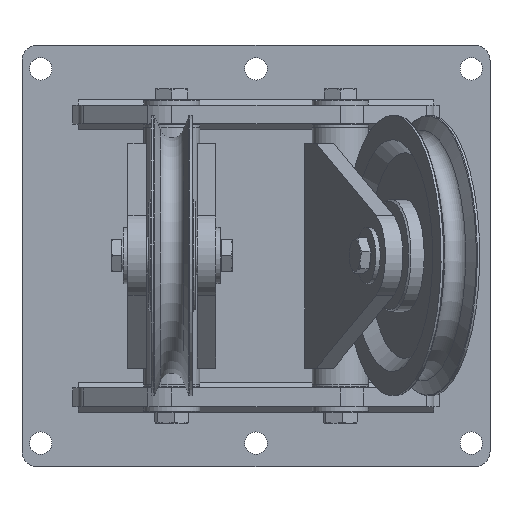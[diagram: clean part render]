
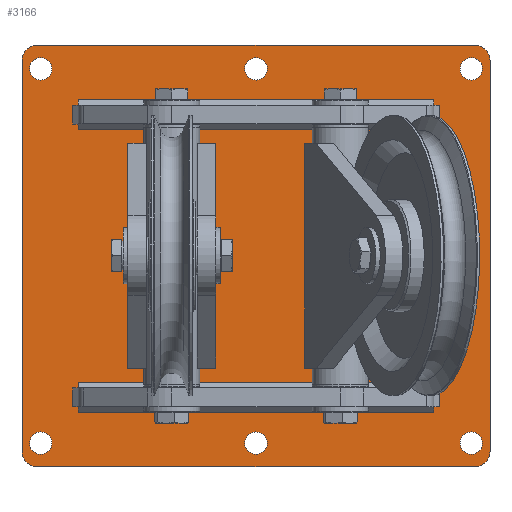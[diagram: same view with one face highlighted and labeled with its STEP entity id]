
A CAD part, top view. The second image highlights one B-rep face of the part: STEP entity #3166.
In plain terms, the highlighted planar face has unit normal (0, 0, 1).
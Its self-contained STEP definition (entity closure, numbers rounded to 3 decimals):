
#213=FACE_BOUND('',#774,.T.);
#214=FACE_BOUND('',#775,.T.);
#215=FACE_BOUND('',#776,.T.);
#216=FACE_BOUND('',#777,.T.);
#217=FACE_BOUND('',#778,.T.);
#218=FACE_BOUND('',#779,.T.);
#251=CIRCLE('',#3672,6.);
#252=CIRCLE('',#3673,6.);
#254=CIRCLE('',#3676,6.);
#255=CIRCLE('',#3677,6.);
#257=CIRCLE('',#3680,6.);
#258=CIRCLE('',#3681,6.);
#260=CIRCLE('',#3684,6.);
#261=CIRCLE('',#3685,6.);
#263=CIRCLE('',#3688,6.);
#264=CIRCLE('',#3689,6.);
#266=CIRCLE('',#3692,6.);
#267=CIRCLE('',#3693,6.);
#269=CIRCLE('',#3696,8.);
#271=CIRCLE('',#3700,8.);
#272=CIRCLE('',#3701,8.);
#273=CIRCLE('',#3702,8.);
#585=FACE_OUTER_BOUND('',#773,.T.);
#773=EDGE_LOOP('',(#2331,#2332,#2333,#2334,#2335,#2336,#2337,#2338));
#774=EDGE_LOOP('',(#2339,#2340));
#775=EDGE_LOOP('',(#2341,#2342));
#776=EDGE_LOOP('',(#2343,#2344));
#777=EDGE_LOOP('',(#2345,#2346));
#778=EDGE_LOOP('',(#2347,#2348));
#779=EDGE_LOOP('',(#2349,#2350));
#1031=LINE('',#5326,#1271);
#1034=LINE('',#5332,#1274);
#1035=LINE('',#5336,#1275);
#1036=LINE('',#5340,#1276);
#1271=VECTOR('',#4263,10.);
#1274=VECTOR('',#4268,10.);
#1275=VECTOR('',#4271,10.);
#1276=VECTOR('',#4274,10.);
#1479=VERTEX_POINT('',#5268);
#1480=VERTEX_POINT('',#5269);
#1482=VERTEX_POINT('',#5276);
#1483=VERTEX_POINT('',#5277);
#1485=VERTEX_POINT('',#5284);
#1486=VERTEX_POINT('',#5285);
#1488=VERTEX_POINT('',#5292);
#1489=VERTEX_POINT('',#5293);
#1491=VERTEX_POINT('',#5300);
#1492=VERTEX_POINT('',#5301);
#1494=VERTEX_POINT('',#5308);
#1495=VERTEX_POINT('',#5309);
#1497=VERTEX_POINT('',#5316);
#1498=VERTEX_POINT('',#5317);
#1501=VERTEX_POINT('',#5325);
#1503=VERTEX_POINT('',#5331);
#1504=VERTEX_POINT('',#5333);
#1505=VERTEX_POINT('',#5335);
#1506=VERTEX_POINT('',#5337);
#1507=VERTEX_POINT('',#5339);
#1794=EDGE_CURVE('',#1479,#1480,#251,.T.);
#1795=EDGE_CURVE('',#1480,#1479,#252,.T.);
#1798=EDGE_CURVE('',#1482,#1483,#254,.T.);
#1799=EDGE_CURVE('',#1483,#1482,#255,.T.);
#1802=EDGE_CURVE('',#1485,#1486,#257,.T.);
#1803=EDGE_CURVE('',#1486,#1485,#258,.T.);
#1806=EDGE_CURVE('',#1488,#1489,#260,.T.);
#1807=EDGE_CURVE('',#1489,#1488,#261,.T.);
#1810=EDGE_CURVE('',#1491,#1492,#263,.T.);
#1811=EDGE_CURVE('',#1492,#1491,#264,.T.);
#1814=EDGE_CURVE('',#1494,#1495,#266,.T.);
#1815=EDGE_CURVE('',#1495,#1494,#267,.T.);
#1818=EDGE_CURVE('',#1497,#1498,#269,.T.);
#1822=EDGE_CURVE('',#1501,#1498,#1031,.T.);
#1825=EDGE_CURVE('',#1497,#1503,#1034,.T.);
#1826=EDGE_CURVE('',#1504,#1503,#271,.T.);
#1827=EDGE_CURVE('',#1504,#1505,#1035,.T.);
#1828=EDGE_CURVE('',#1506,#1505,#272,.T.);
#1829=EDGE_CURVE('',#1506,#1507,#1036,.T.);
#1830=EDGE_CURVE('',#1501,#1507,#273,.T.);
#2331=ORIENTED_EDGE('',*,*,#1818,.F.);
#2332=ORIENTED_EDGE('',*,*,#1825,.T.);
#2333=ORIENTED_EDGE('',*,*,#1826,.F.);
#2334=ORIENTED_EDGE('',*,*,#1827,.T.);
#2335=ORIENTED_EDGE('',*,*,#1828,.F.);
#2336=ORIENTED_EDGE('',*,*,#1829,.T.);
#2337=ORIENTED_EDGE('',*,*,#1830,.F.);
#2338=ORIENTED_EDGE('',*,*,#1822,.T.);
#2339=ORIENTED_EDGE('',*,*,#1794,.T.);
#2340=ORIENTED_EDGE('',*,*,#1795,.T.);
#2341=ORIENTED_EDGE('',*,*,#1798,.T.);
#2342=ORIENTED_EDGE('',*,*,#1799,.T.);
#2343=ORIENTED_EDGE('',*,*,#1802,.T.);
#2344=ORIENTED_EDGE('',*,*,#1803,.T.);
#2345=ORIENTED_EDGE('',*,*,#1806,.T.);
#2346=ORIENTED_EDGE('',*,*,#1807,.T.);
#2347=ORIENTED_EDGE('',*,*,#1810,.T.);
#2348=ORIENTED_EDGE('',*,*,#1811,.T.);
#2349=ORIENTED_EDGE('',*,*,#1814,.T.);
#2350=ORIENTED_EDGE('',*,*,#1815,.T.);
#3044=PLANE('',#3699);
#3166=ADVANCED_FACE('',(#585,#213,#214,#215,#216,#217,#218),#3044,.T.);
#3672=AXIS2_PLACEMENT_3D('',#5270,#4201,#4202);
#3673=AXIS2_PLACEMENT_3D('',#5271,#4203,#4204);
#3676=AXIS2_PLACEMENT_3D('',#5278,#4210,#4211);
#3677=AXIS2_PLACEMENT_3D('',#5279,#4212,#4213);
#3680=AXIS2_PLACEMENT_3D('',#5286,#4219,#4220);
#3681=AXIS2_PLACEMENT_3D('',#5287,#4221,#4222);
#3684=AXIS2_PLACEMENT_3D('',#5294,#4228,#4229);
#3685=AXIS2_PLACEMENT_3D('',#5295,#4230,#4231);
#3688=AXIS2_PLACEMENT_3D('',#5302,#4237,#4238);
#3689=AXIS2_PLACEMENT_3D('',#5303,#4239,#4240);
#3692=AXIS2_PLACEMENT_3D('',#5310,#4246,#4247);
#3693=AXIS2_PLACEMENT_3D('',#5311,#4248,#4249);
#3696=AXIS2_PLACEMENT_3D('',#5318,#4255,#4256);
#3699=AXIS2_PLACEMENT_3D('',#5330,#4266,#4267);
#3700=AXIS2_PLACEMENT_3D('',#5334,#4269,#4270);
#3701=AXIS2_PLACEMENT_3D('',#5338,#4272,#4273);
#3702=AXIS2_PLACEMENT_3D('',#5341,#4275,#4276);
#4201=DIRECTION('center_axis',(0.,0.,-1.));
#4202=DIRECTION('ref_axis',(1.,0.,0.));
#4203=DIRECTION('center_axis',(0.,0.,-1.));
#4204=DIRECTION('ref_axis',(1.,0.,0.));
#4210=DIRECTION('center_axis',(0.,0.,-1.));
#4211=DIRECTION('ref_axis',(1.,0.,0.));
#4212=DIRECTION('center_axis',(0.,0.,-1.));
#4213=DIRECTION('ref_axis',(1.,0.,0.));
#4219=DIRECTION('center_axis',(0.,0.,-1.));
#4220=DIRECTION('ref_axis',(1.,0.,0.));
#4221=DIRECTION('center_axis',(0.,0.,-1.));
#4222=DIRECTION('ref_axis',(1.,0.,0.));
#4228=DIRECTION('center_axis',(0.,0.,-1.));
#4229=DIRECTION('ref_axis',(1.,0.,0.));
#4230=DIRECTION('center_axis',(0.,0.,-1.));
#4231=DIRECTION('ref_axis',(1.,0.,0.));
#4237=DIRECTION('center_axis',(0.,0.,-1.));
#4238=DIRECTION('ref_axis',(1.,0.,0.));
#4239=DIRECTION('center_axis',(0.,0.,-1.));
#4240=DIRECTION('ref_axis',(1.,0.,0.));
#4246=DIRECTION('center_axis',(0.,0.,-1.));
#4247=DIRECTION('ref_axis',(1.,0.,0.));
#4248=DIRECTION('center_axis',(0.,0.,-1.));
#4249=DIRECTION('ref_axis',(1.,0.,0.));
#4255=DIRECTION('center_axis',(0.,0.,-1.));
#4256=DIRECTION('ref_axis',(0.707,-0.707,0.));
#4263=DIRECTION('',(1.,0.,0.));
#4266=DIRECTION('center_axis',(0.,0.,1.));
#4267=DIRECTION('ref_axis',(1.,0.,0.));
#4268=DIRECTION('',(0.,1.,0.));
#4269=DIRECTION('center_axis',(0.,0.,-1.));
#4270=DIRECTION('ref_axis',(0.707,0.707,0.));
#4271=DIRECTION('',(-1.,0.,0.));
#4272=DIRECTION('center_axis',(0.,0.,-1.));
#4273=DIRECTION('ref_axis',(-0.707,0.707,0.));
#4274=DIRECTION('',(0.,-1.,0.));
#4275=DIRECTION('center_axis',(0.,0.,-1.));
#4276=DIRECTION('ref_axis',(-0.707,-0.707,0.));
#5268=CARTESIAN_POINT('',(6.,100.,10.));
#5269=CARTESIAN_POINT('',(-6.,100.,10.));
#5270=CARTESIAN_POINT('Origin',(0.,100.,10.));
#5271=CARTESIAN_POINT('Origin',(0.,100.,10.));
#5276=CARTESIAN_POINT('',(6.,-100.,10.));
#5277=CARTESIAN_POINT('',(-6.,-100.,10.));
#5278=CARTESIAN_POINT('Origin',(0.,-100.,10.));
#5279=CARTESIAN_POINT('Origin',(0.,-100.,10.));
#5284=CARTESIAN_POINT('',(121.,-100.,10.));
#5285=CARTESIAN_POINT('',(109.,-100.,10.));
#5286=CARTESIAN_POINT('Origin',(115.,-100.,10.));
#5287=CARTESIAN_POINT('Origin',(115.,-100.,10.));
#5292=CARTESIAN_POINT('',(-109.,100.,10.));
#5293=CARTESIAN_POINT('',(-121.,100.,10.));
#5294=CARTESIAN_POINT('Origin',(-115.,100.,10.));
#5295=CARTESIAN_POINT('Origin',(-115.,100.,10.));
#5300=CARTESIAN_POINT('',(121.,100.,10.));
#5301=CARTESIAN_POINT('',(109.,100.,10.));
#5302=CARTESIAN_POINT('Origin',(115.,100.,10.));
#5303=CARTESIAN_POINT('Origin',(115.,100.,10.));
#5308=CARTESIAN_POINT('',(-109.,-100.,10.));
#5309=CARTESIAN_POINT('',(-121.,-100.,10.));
#5310=CARTESIAN_POINT('Origin',(-115.,-100.,10.));
#5311=CARTESIAN_POINT('Origin',(-115.,-100.,10.));
#5316=CARTESIAN_POINT('',(125.,-104.5,10.));
#5317=CARTESIAN_POINT('',(117.,-112.5,10.));
#5318=CARTESIAN_POINT('Origin',(117.,-104.5,10.));
#5325=CARTESIAN_POINT('',(-117.,-112.5,10.));
#5326=CARTESIAN_POINT('',(125.,-112.5,10.));
#5330=CARTESIAN_POINT('Origin',(0.,0.,10.));
#5331=CARTESIAN_POINT('',(125.,104.5,10.));
#5332=CARTESIAN_POINT('',(125.,112.5,10.));
#5333=CARTESIAN_POINT('',(117.,112.5,10.));
#5334=CARTESIAN_POINT('Origin',(117.,104.5,10.));
#5335=CARTESIAN_POINT('',(-117.,112.5,10.));
#5336=CARTESIAN_POINT('',(-125.,112.5,10.));
#5337=CARTESIAN_POINT('',(-125.,104.5,10.));
#5338=CARTESIAN_POINT('Origin',(-117.,104.5,10.));
#5339=CARTESIAN_POINT('',(-125.,-104.5,10.));
#5340=CARTESIAN_POINT('',(-125.,-112.5,10.));
#5341=CARTESIAN_POINT('Origin',(-117.,-104.5,10.));
